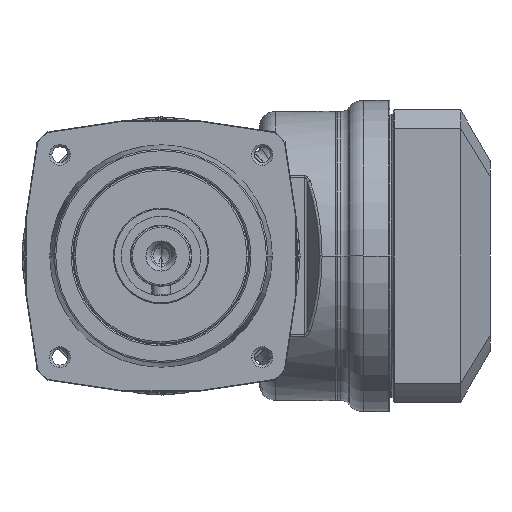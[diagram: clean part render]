
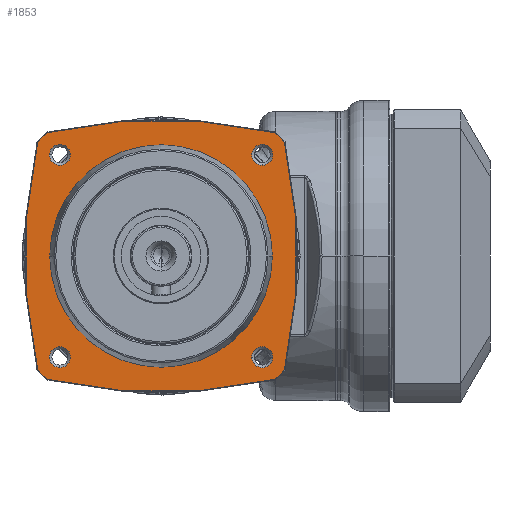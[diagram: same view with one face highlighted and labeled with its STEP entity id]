
A CAD part, left-side view. The second image highlights one B-rep face of the part: STEP entity #1853.
In plain terms, the highlighted planar face has unit normal (-1, 0, 0).
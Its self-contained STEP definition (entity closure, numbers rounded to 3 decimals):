
#332=CARTESIAN_POINT('',(12.5,31.82,31.82));
#333=DIRECTION('',(1.,0.,0.));
#334=DIRECTION('',(0.,-1.,0.));
#335=AXIS2_PLACEMENT_3D('',#332,#333,#334);
#337=CARTESIAN_POINT('',(12.5,31.82,31.82));
#338=DIRECTION('',(1.,0.,0.));
#339=DIRECTION('',(0.,1.,0.));
#340=AXIS2_PLACEMENT_3D('',#337,#338,#339);
#342=CARTESIAN_POINT('',(12.5,31.82,-31.82));
#343=DIRECTION('',(1.,0.,0.));
#344=DIRECTION('',(0.,0.,-1.));
#345=AXIS2_PLACEMENT_3D('',#342,#343,#344);
#347=CARTESIAN_POINT('',(12.5,31.82,-31.82));
#348=DIRECTION('',(1.,0.,0.));
#349=DIRECTION('',(0.,0.,1.));
#350=AXIS2_PLACEMENT_3D('',#347,#348,#349);
#352=CARTESIAN_POINT('',(12.5,-31.82,-31.82));
#353=DIRECTION('',(1.,0.,0.));
#354=DIRECTION('',(0.,-1.,0.));
#355=AXIS2_PLACEMENT_3D('',#352,#353,#354);
#357=CARTESIAN_POINT('',(12.5,-31.82,-31.82));
#358=DIRECTION('',(1.,0.,0.));
#359=DIRECTION('',(0.,1.,0.));
#360=AXIS2_PLACEMENT_3D('',#357,#358,#359);
#362=CARTESIAN_POINT('',(12.5,-31.82,31.82));
#363=DIRECTION('',(1.,0.,0.));
#364=DIRECTION('',(0.,0.,1.));
#365=AXIS2_PLACEMENT_3D('',#362,#363,#364);
#367=CARTESIAN_POINT('',(12.5,-31.82,31.82));
#368=DIRECTION('',(1.,0.,0.));
#369=DIRECTION('',(0.,0.,-1.));
#370=AXIS2_PLACEMENT_3D('',#367,#368,#369);
#372=CARTESIAN_POINT('',(12.5,0.,0.));
#373=DIRECTION('',(-1.,0.,0.));
#374=DIRECTION('',(0.,1.,0.));
#375=AXIS2_PLACEMENT_3D('',#372,#373,#374);
#377=CARTESIAN_POINT('',(12.5,0.,0.));
#378=DIRECTION('',(-1.,0.,0.));
#379=DIRECTION('',(0.,-1.,0.));
#380=AXIS2_PLACEMENT_3D('',#377,#378,#379);
#382=CARTESIAN_POINT('',(12.5,-120.,0.));
#383=DIRECTION('',(-1.,0.,0.));
#384=DIRECTION('',(0.,0.976,0.22));
#385=AXIS2_PLACEMENT_3D('',#382,#383,#384);
#387=CARTESIAN_POINT('',(12.5,0.,0.));
#388=DIRECTION('',(-1.,0.,0.));
#389=DIRECTION('',(0.,0.678,0.735));
#390=AXIS2_PLACEMENT_3D('',#387,#388,#389);
#392=CARTESIAN_POINT('',(12.5,0.,-120.));
#393=DIRECTION('',(-1.,0.,0.));
#394=DIRECTION('',(0.,-0.22,0.976));
#395=AXIS2_PLACEMENT_3D('',#392,#393,#394);
#397=CARTESIAN_POINT('',(12.5,0.,0.));
#398=DIRECTION('',(-1.,0.,0.));
#399=DIRECTION('',(0.,-0.735,0.678));
#400=AXIS2_PLACEMENT_3D('',#397,#398,#399);
#402=CARTESIAN_POINT('',(12.5,120.,0.));
#403=DIRECTION('',(-1.,0.,0.));
#404=DIRECTION('',(0.,-0.976,-0.22));
#405=AXIS2_PLACEMENT_3D('',#402,#403,#404);
#407=CARTESIAN_POINT('',(12.5,0.,0.));
#408=DIRECTION('',(-1.,0.,0.));
#409=DIRECTION('',(0.,-0.678,-0.735));
#410=AXIS2_PLACEMENT_3D('',#407,#408,#409);
#412=CARTESIAN_POINT('',(12.5,0.,120.));
#413=DIRECTION('',(-1.,0.,0.));
#414=DIRECTION('',(0.,0.22,-0.976));
#415=AXIS2_PLACEMENT_3D('',#412,#413,#414);
#417=CARTESIAN_POINT('',(12.5,0.,0.));
#418=DIRECTION('',(-1.,0.,0.));
#419=DIRECTION('',(0.,0.735,-0.678));
#420=AXIS2_PLACEMENT_3D('',#417,#418,#419);
#815=CARTESIAN_POINT('',(12.5,-35.792,38.817));
#822=CARTESIAN_POINT('',(12.5,35.792,38.817));
#843=CARTESIAN_POINT('',(12.5,35.792,-38.817));
#864=CARTESIAN_POINT('',(12.5,-38.817,35.792));
#1119=CARTESIAN_POINT('',(12.5,28.52,31.82));
#1120=CARTESIAN_POINT('',(12.5,35.12,31.82));
#1121=VERTEX_POINT('',#1119);
#1122=VERTEX_POINT('',#1120);
#1123=CARTESIAN_POINT('',(12.5,31.82,-35.12));
#1124=CARTESIAN_POINT('',(12.5,31.82,-28.52));
#1125=VERTEX_POINT('',#1123);
#1126=VERTEX_POINT('',#1124);
#1127=CARTESIAN_POINT('',(12.5,-35.12,
-31.82));
#1128=CARTESIAN_POINT('',(12.5,-28.52,
-31.82));
#1129=VERTEX_POINT('',#1127);
#1130=VERTEX_POINT('',#1128);
#1131=CARTESIAN_POINT('',(12.5,-31.82,35.12));
#1132=CARTESIAN_POINT('',(12.5,-31.82,28.52));
#1133=VERTEX_POINT('',#1131);
#1134=VERTEX_POINT('',#1132);
#1143=CARTESIAN_POINT('',(12.5,38.817,35.792));
#1144=CARTESIAN_POINT('',(12.5,38.817,-35.792));
#1145=VERTEX_POINT('',#1143);
#1146=VERTEX_POINT('',#1144);
#1152=VERTEX_POINT('',#815);
#1154=VERTEX_POINT('',#822);
#1194=VERTEX_POINT('',#864);
#1202=VERTEX_POINT('',#843);
#1207=CARTESIAN_POINT('',(12.5,-38.817,-35.792));
#1208=VERTEX_POINT('',#1207);
#1209=CARTESIAN_POINT('',(12.5,-35.792,-38.817));
#1210=VERTEX_POINT('',#1209);
#1221=CARTESIAN_POINT('',(12.5,35.,0.));
#1222=CARTESIAN_POINT('',(12.5,-35.,0.));
#1223=VERTEX_POINT('',#1221);
#1224=VERTEX_POINT('',#1222);
#1801=CARTESIAN_POINT('',(12.5,0.,0.));
#1802=DIRECTION('',(-1.,0.,0.));
#1803=DIRECTION('',(0.,1.,0.));
#1804=AXIS2_PLACEMENT_3D('',#1801,#1802,#1803);
#1805=PLANE('',#1804);
#1807=ORIENTED_EDGE('',*,*,#1806,.F.);
#1809=ORIENTED_EDGE('',*,*,#1808,.F.);
#1811=ORIENTED_EDGE('',*,*,#1810,.F.);
#1813=ORIENTED_EDGE('',*,*,#1812,.F.);
#1815=ORIENTED_EDGE('',*,*,#1814,.F.);
#1817=ORIENTED_EDGE('',*,*,#1816,.F.);
#1819=ORIENTED_EDGE('',*,*,#1818,.F.);
#1821=ORIENTED_EDGE('',*,*,#1820,.F.);
#1822=EDGE_LOOP('',(#1807,#1809,#1811,#1813,#1815,#1817,#1819,#1821));
#1823=FACE_OUTER_BOUND('',#1822,.F.);
#1825=ORIENTED_EDGE('',*,*,#1824,.F.);
#1827=ORIENTED_EDGE('',*,*,#1826,.F.);
#1828=EDGE_LOOP('',(#1825,#1827));
#1829=FACE_BOUND('',#1828,.F.);
#1831=ORIENTED_EDGE('',*,*,#1830,.F.);
#1833=ORIENTED_EDGE('',*,*,#1832,.F.);
#1834=EDGE_LOOP('',(#1831,#1833));
#1835=FACE_BOUND('',#1834,.F.);
#1837=ORIENTED_EDGE('',*,*,#1836,.F.);
#1839=ORIENTED_EDGE('',*,*,#1838,.F.);
#1840=EDGE_LOOP('',(#1837,#1839));
#1841=FACE_BOUND('',#1840,.F.);
#1843=ORIENTED_EDGE('',*,*,#1842,.F.);
#1845=ORIENTED_EDGE('',*,*,#1844,.F.);
#1846=EDGE_LOOP('',(#1843,#1845));
#1847=FACE_BOUND('',#1846,.F.);
#1849=ORIENTED_EDGE('',*,*,#1848,.T.);
#1850=ORIENTED_EDGE('',*,*,#1791,.T.);
#1851=EDGE_LOOP('',(#1849,#1850));
#1852=FACE_BOUND('',#1851,.F.);
#1853=ADVANCED_FACE('',(#1823,#1829,#1835,#1841,#1847,#1852),#1805,.T.);
#336=CIRCLE('',#335,3.3);
#341=CIRCLE('',#340,3.3);
#346=CIRCLE('',#345,3.3);
#351=CIRCLE('',#350,3.3);
#356=CIRCLE('',#355,3.3);
#361=CIRCLE('',#360,3.3);
#366=CIRCLE('',#365,3.3);
#371=CIRCLE('',#370,3.3);
#376=CIRCLE('',#375,35.);
#381=CIRCLE('',#380,35.);
#386=CIRCLE('',#385,162.8);
#391=CIRCLE('',#390,52.799);
#396=CIRCLE('',#395,162.8);
#401=CIRCLE('',#400,52.799);
#406=CIRCLE('',#405,162.8);
#411=CIRCLE('',#410,52.799);
#416=CIRCLE('',#415,162.8);
#421=CIRCLE('',#420,52.799);
#1791=EDGE_CURVE('',#1224,#1223,#381,.T.);
#1806=EDGE_CURVE('',#1145,#1146,#386,.T.);
#1808=EDGE_CURVE('',#1154,#1145,#391,.T.);
#1810=EDGE_CURVE('',#1152,#1154,#396,.T.);
#1812=EDGE_CURVE('',#1194,#1152,#401,.T.);
#1814=EDGE_CURVE('',#1208,#1194,#406,.T.);
#1816=EDGE_CURVE('',#1210,#1208,#411,.T.);
#1818=EDGE_CURVE('',#1202,#1210,#416,.T.);
#1820=EDGE_CURVE('',#1146,#1202,#421,.T.);
#1824=EDGE_CURVE('',#1121,#1122,#336,.T.);
#1826=EDGE_CURVE('',#1122,#1121,#341,.T.);
#1830=EDGE_CURVE('',#1125,#1126,#346,.T.);
#1832=EDGE_CURVE('',#1126,#1125,#351,.T.);
#1836=EDGE_CURVE('',#1129,#1130,#356,.T.);
#1838=EDGE_CURVE('',#1130,#1129,#361,.T.);
#1842=EDGE_CURVE('',#1133,#1134,#366,.T.);
#1844=EDGE_CURVE('',#1134,#1133,#371,.T.);
#1848=EDGE_CURVE('',#1223,#1224,#376,.T.);
